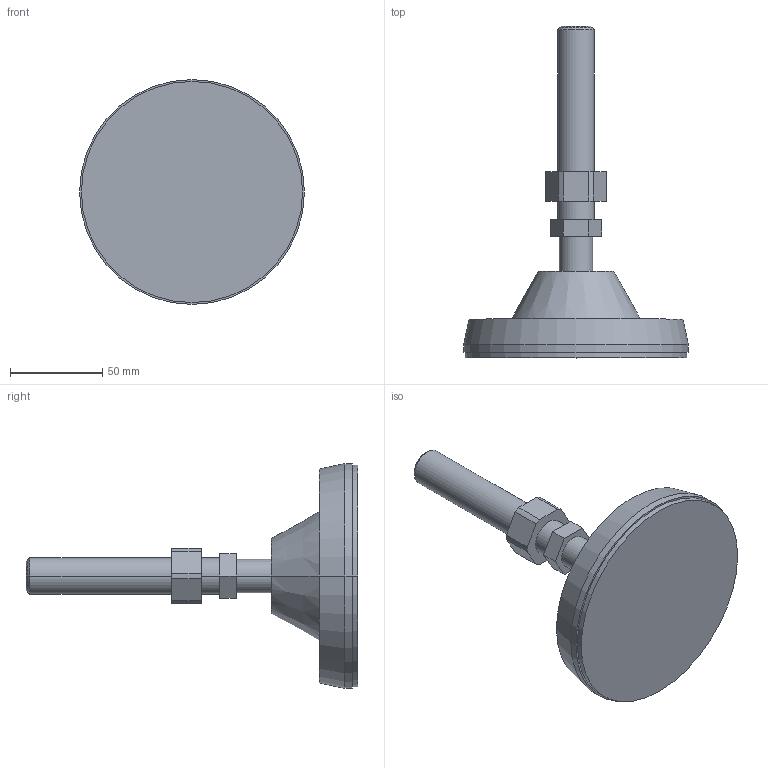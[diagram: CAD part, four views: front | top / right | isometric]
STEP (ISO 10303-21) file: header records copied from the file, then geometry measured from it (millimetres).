
FILE_DESCRIPTION((''),'2;1');
FILE_NAME('SUP12020','2002-12-27T',('Lipro doo'),('Lipro d.o.o.'),'PRO/ENGINEER BY PARAMETRIC TECHNOLOGY CORPORATION, 2001150','PRO/ENGINEER BY PARAMETRIC TECHNOLOGY CORPORATION, 2001150','');
FILE_SCHEMA(('CONFIG_CONTROL_DESIGN'));
Length unit declared in the file: millimetre
Products named in the file (1): SUP12020
Bounding box: 122 x 180 x 122 mm (x, y, z)
Volume: 350280.7 mm3; surface area: 49026.5 mm2
Topology: 1 solids, 2 shells, 45 faces, 104 edges, 68 vertices
Faces by surface type: plane 21, cylinder 18, cone 6
Entity records: 1334 total; most frequent: DIRECTION 240, CARTESIAN_POINT 218, ORIENTED_EDGE 204, EDGE_CURVE 104, AXIS2_PLACEMENT_3D 90, VERTEX_POINT 68, VECTOR 60, LINE 60
